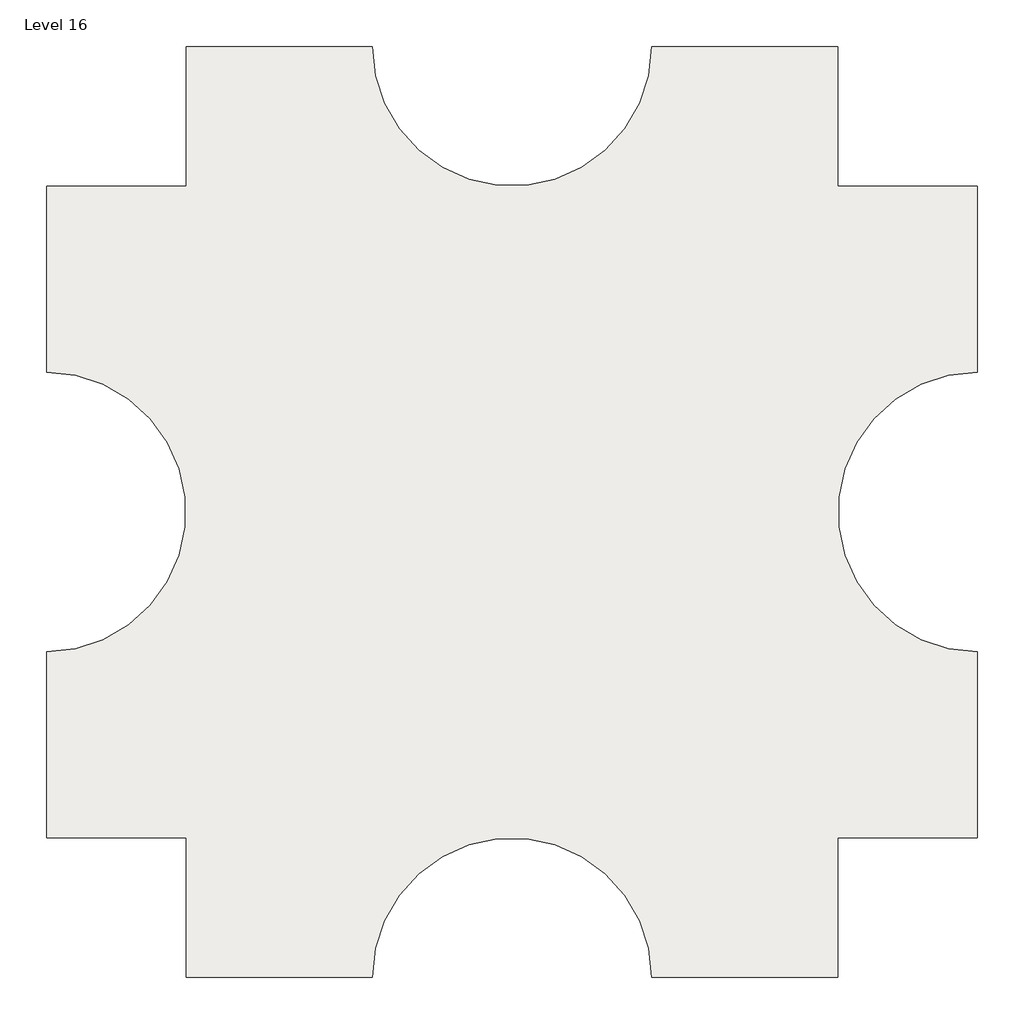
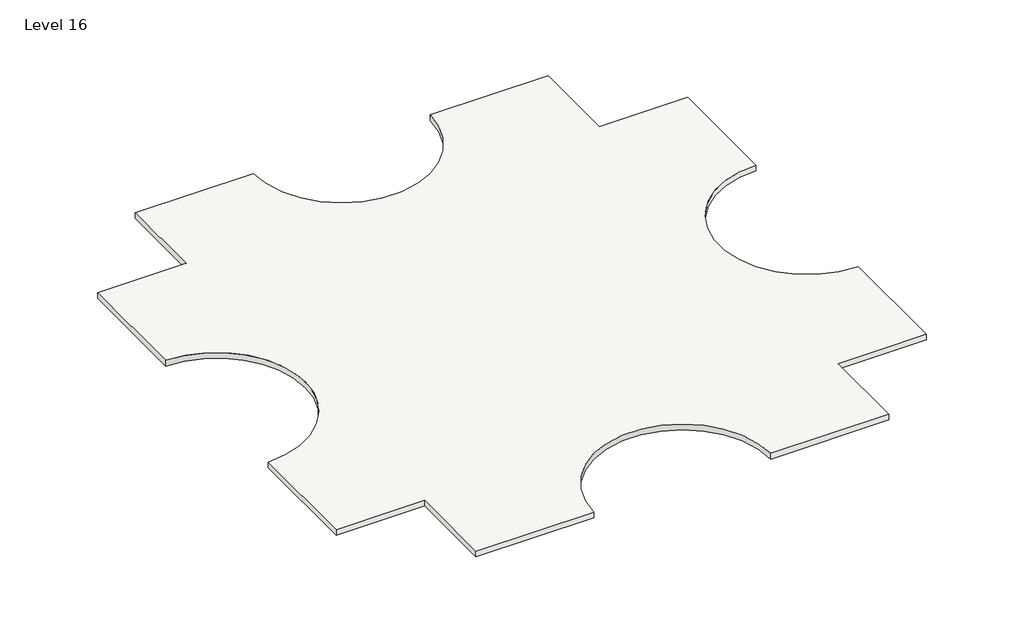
# One storey: 1 slab.
"""IFC4 building model written with IfcOpenShell, lengths in millimetres."""

import ifcopenshell
import ifcopenshell.guid

model = None  # the IFC model being written
_history = None  # IfcOwnerHistory: only IFC2X3 demands one
_inside = {}  # id of a spatial element -> (the spatial element, [elements in it])
_under = {}  # id of a project, library or spatial element -> (it, [spatial elements below it])
_declared = {}  # id of a project -> (the project, [libraries it declares])
_typed = {}  # id of a type object -> (the type object, [elements of that type])
_made_of = {}  # id of a material, layer set ... -> (it, [elements and type objects made of it])


def new_model(schema):
    """Start an empty IFC model of exactly this schema.

    Asked for "IFC4X3", IfcOpenShell would pick the latest addendum, in which some entities
    have other attributes; the version numbers below select the first issue.
    IFC2X3 requires an IfcOwnerHistory on every rooted entity: one is made here for all.
    """
    global model, _history
    if schema == "IFC4X3":
        model = ifcopenshell.file(schema_version=(4, 3, 0, 0))
    else:
        model = ifcopenshell.file(schema=schema)
    _inside.clear()
    _under.clear()
    _declared.clear()
    _typed.clear()
    _made_of.clear()
    _history = None
    if model.schema == "IFC2X3":
        org = make("IfcOrganization", Name="unknown")
        user = make(
            "IfcPersonAndOrganization",
            ThePerson=make("IfcPerson", FamilyName="unknown"),
            TheOrganization=org,
        )
        app = make(
            "IfcApplication",
            ApplicationDeveloper=org,
            Version="unknown",
            ApplicationFullName="unknown",
            ApplicationIdentifier="unknown",
        )
        _history = make(
            "IfcOwnerHistory",
            OwningUser=user,
            OwningApplication=app,
            ChangeAction="ADDED",
            CreationDate=0,
        )
    return model


def make(cls, **values):
    """One entity of the class cls with the attributes given. An attribute that is None is left unset."""
    return model.create_entity(
        cls, **{name: value for name, value in values.items() if value is not None}
    )


def rooted(cls, **values):
    """An entity with a GlobalId (a new one), such as an element, a storey or a relation."""
    return make(cls, GlobalId=ifcopenshell.guid.new(), OwnerHistory=_history, **values)


def si_unit(unit_type, name, prefix=None):
    """IfcSIUnit, for example si_unit("LENGTHUNIT", "METRE", prefix="MILLI")."""
    return make("IfcSIUnit", UnitType=unit_type, Prefix=prefix, Name=name)


def assignment(units):
    """IfcUnitAssignment: the units of a project."""
    return None if units is None else make("IfcUnitAssignment", Units=units)


def point(xyz):
    """IfcCartesianPoint."""
    return None if xyz is None else make("IfcCartesianPoint", Coordinates=xyz)


def direction(xyz):
    """IfcDirection."""
    return None if xyz is None else make("IfcDirection", DirectionRatios=xyz)


def frame(location, z_axis=None, x_axis=None):
    """IfcAxis2Placement3D, a coordinate frame: its origin and axes. An axis left out is left unset."""
    return make(
        "IfcAxis2Placement3D",
        Location=point(location),
        Axis=direction(z_axis),
        RefDirection=direction(x_axis),
    )


def frame_2d(location, x_axis=None):
    """IfcAxis2Placement2D, a coordinate frame in the plane: its origin and x axis."""
    return make(
        "IfcAxis2Placement2D", Location=point(location), RefDirection=direction(x_axis)
    )


def origin():
    """The frame at (0, 0, 0) with its axes left unset."""
    return frame((0.0, 0.0, 0.0))


def place(relative_to, where):
    """IfcLocalPlacement: puts the frame where relative to a parent placement (None: the world)."""
    return make(
        "IfcLocalPlacement", PlacementRelTo=relative_to, RelativePlacement=where
    )


def context(
    kind, dimensions, precision=None, world=None, true_north=None, identifier=None
):
    """IfcGeometricRepresentationContext, for example the 3D "Model" context."""
    return make(
        "IfcGeometricRepresentationContext",
        ContextIdentifier=identifier,
        ContextType=kind,
        CoordinateSpaceDimension=dimensions,
        Precision=precision,
        WorldCoordinateSystem=world,
        TrueNorth=true_north,
    )


def project(units=None, contexts=None):
    """IfcProject with its units and contexts."""
    return rooted(
        "IfcProject",
        Name="project",
        RepresentationContexts=contexts,
        UnitsInContext=assignment(units),
    )


def spatial(cls, under=None, at=None, **own):
    """A site, building, storey or space (cls), placed at a placement, below another one or the project."""
    s = rooted(cls, ObjectPlacement=at, **own)
    if under is not None:
        _under.setdefault(under.id(), (under, []))[1].append(s)
    return s


def polyline(points):
    """IfcPolyline through the points."""
    return make("IfcPolyline", Points=[point(p) for p in points])


def circle_curve(where, radius):
    """IfcCircle in the frame where."""
    return make("IfcCircle", Position=where, Radius=radius)


def trimmed(basis, trim1, trim2, sense, master):
    """IfcTrimmedCurve: the piece of a basis curve between two trims."""
    return make(
        "IfcTrimmedCurve",
        BasisCurve=basis,
        Trim1=trim1,
        Trim2=trim2,
        SenseAgreement=sense,
        MasterRepresentation=master,
    )


def segment(curve, same_sense, transition):
    """IfcCompositeCurveSegment."""
    return make(
        "IfcCompositeCurveSegment",
        Transition=transition,
        SameSense=same_sense,
        ParentCurve=curve,
    )


def composite_curve(segments, self_intersect=None):
    """IfcCompositeCurve: segments joined end to end."""
    return make("IfcCompositeCurve", Segments=segments, SelfIntersect=self_intersect)


def outline(outer, holes=None, kind="AREA"):
    """IfcArbitraryClosedProfileDef: a profile drawn as a closed curve; with holes, ...WithVoids."""
    if holes is None:
        return make("IfcArbitraryClosedProfileDef", ProfileType=kind, OuterCurve=outer)
    return make(
        "IfcArbitraryProfileDefWithVoids",
        ProfileType=kind,
        OuterCurve=outer,
        InnerCurves=holes,
    )


def extrude(swept, where, along, depth):
    """IfcExtrudedAreaSolid: the profile swept, set in the frame where, extruded along a direction by depth."""
    return make(
        "IfcExtrudedAreaSolid",
        SweptArea=swept,
        Position=where,
        ExtrudedDirection=direction(along),
        Depth=depth,
    )


def shape(context_of_items, identifier, shape_type, items):
    """IfcShapeRepresentation: the items that make up one representation, for example the "Body"."""
    return make(
        "IfcShapeRepresentation",
        ContextOfItems=context_of_items,
        RepresentationIdentifier=identifier,
        RepresentationType=shape_type,
        Items=items,
    )


def made_of(thing, what):
    """Note that an element or type object is made of a material, layer set ...; save() writes the relation."""
    if what is not None:
        _made_of.setdefault(what.id(), (what, []))[1].append(thing)
    return thing


def element(
    cls,
    number,
    at=None,
    inside=None,
    cuts=None,
    type_object=None,
    material=None,
    context=None,
    identifier="Body",
    shape_type=None,
    held_by="IfcProductDefinitionShape",
    body=None,
    shapes=None,
    **own,
):
    """One element of the class cls, such as IfcWall. Its Tag is "e" and its number.

    at: its placement. inside: the storey or other place that contains it. cuts: it is an
    opening in that element (IfcRelVoidsElement). A single representation is given by context,
    identifier, shape_type and body (its items); several are given by shapes. held_by: the class
    of the entity that holds the representations. save() writes the other relations.
    """
    e = rooted(cls, Tag="e%d" % number, ObjectPlacement=at, **own)
    if body is not None:
        shapes = [shape(context, identifier, shape_type, body)]
    if shapes is not None:
        e.Representation = make(held_by, Representations=shapes)
    if inside is not None:
        _inside.setdefault(inside.id(), (inside, []))[1].append(e)
    if cuts is not None:
        rooted(
            "IfcRelVoidsElement", RelatingBuildingElement=cuts, RelatedOpeningElement=e
        )
    if type_object is not None:
        _typed.setdefault(type_object.id(), (type_object, []))[1].append(e)
    return made_of(e, material)


def aggregate(whole, parts):
    """IfcRelAggregates: a whole, such as a stair, and the parts it consists of."""
    return rooted("IfcRelAggregates", RelatingObject=whole, RelatedObjects=parts)


def save(model, path):
    """Write the relations noted so far, then the file.

    IfcRelAggregates (storeys below a building ...), IfcRelContainedInSpatialStructure (elements
    in a storey), IfcRelDefinesByType, IfcRelAssociatesMaterial and IfcRelDeclares: one each for
    every whole, place, type object, material and project.
    """
    for whole, parts in _under.values():
        aggregate(whole, parts)
    for where, things in _inside.values():
        rooted(
            "IfcRelContainedInSpatialStructure",
            RelatedElements=things,
            RelatingStructure=where,
        )
    for kind, things in _typed.values():
        rooted("IfcRelDefinesByType", RelatedObjects=things, RelatingType=kind)
    for what, things in _made_of.values():
        rooted("IfcRelAssociatesMaterial", RelatedObjects=things, RelatingMaterial=what)
    for by, libraries in _declared.values():
        rooted("IfcRelDeclares", RelatingContext=by, RelatedDefinitions=libraries)
    model.write(path)


model = new_model("IFC4")

# Units and contexts
model_context = context("Model", 3, world=origin())
ifc_project = project(units=[si_unit("LENGTHUNIT", "METRE", prefix="MILLI")], contexts=[model_context])

# Site, building, storey
site = spatial("IfcSite", under=ifc_project)
building = spatial("IfcBuilding", under=site)
storey = spatial("IfcBuildingStorey", under=building, Name="Level 16", Elevation=45720.0)

# Slab
placement = place(None, origin())
element("IfcSlab", 1, ObjectType="Generic - 12\"", at=placement, inside=storey, context=model_context, shape_type="SweptSolid", body=[
    extrude(outline(composite_curve([segment(polyline([(-7150.3629456, 4479.6634547), (-7150.3629456, 9051.6634547), (-1054.3629456, 9051.6634547)]), True, "CONTINUOUS"), segment(trimmed(circle_curve(frame_2d((3517.6370544, 9051.6634547)), 4572.0), [point((-1054.3629456, 9051.6634547))], [point((8089.6370544, 9051.6634547))], True, "CARTESIAN"), True, "CONTINUOUS"), segment(polyline([(8089.6370544, 9051.6634547), (14185.6370544, 9051.6634547), (14185.6370544, 4479.6634547), (18757.6370544, 4479.6634547), (18757.6370544, -1616.3365453)]), True, "CONTINUOUS"), segment(trimmed(circle_curve(frame_2d((18757.6370544, -6188.3365453)), 4572.0), [point((18757.6370544, -1616.3365453))], [point((18757.6370544, -10760.3365453))], True, "CARTESIAN"), True, "CONTINUOUS"), segment(polyline([(18757.6370544, -10760.3365453), (18757.6370544, -16856.3365453), (14185.6370544, -16856.3365453), (14185.6370544, -21428.3365453), (8089.6370544, -21428.3365453)]), True, "CONTINUOUS"), segment(trimmed(circle_curve(frame_2d((3517.6370544, -21428.3365453)), 4572.0), [point((8089.6370544, -21428.3365453))], [point((-1054.3629456, -21428.3365453))], True, "CARTESIAN"), True, "CONTINUOUS"), segment(polyline([(-1054.3629456, -21428.3365453), (-7150.3629456, -21428.3365453), (-7150.3629456, -16856.3365453), (-11722.3629456, -16856.3365453), (-11722.3629456, -10760.3365453)]), True, "CONTINUOUS"), segment(trimmed(circle_curve(frame_2d((-11722.3629456, -6188.3365453)), 4572.0), [point((-11722.3629456, -10760.3365453))], [point((-11722.3629456, -1616.3365453))], True, "CARTESIAN"), True, "CONTINUOUS"), segment(polyline([(-11722.3629456, -1616.3365453), (-11722.3629456, 4479.6634547), (-7150.3629456, 4479.6634547)]), True, "CONTINUOUS")], self_intersect=False)), frame((0.0, 0.0, 45415.2), z_axis=(0.0, 0.0, 1.0), x_axis=(1.0, 0.0, 0.0)), (0.0, 0.0, 1.0), 304.8),
])

save(model, "model.ifc")
